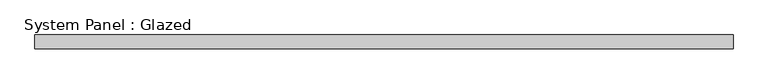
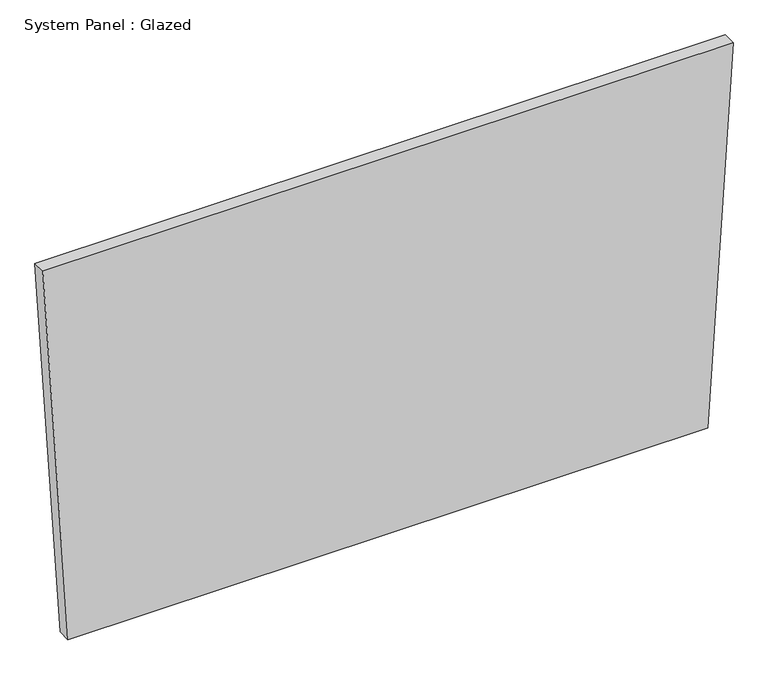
"""IFC4 building model written with IfcOpenShell, lengths in millimetres: plate geometry, System Panel : Glazed."""

from ifc_helpers import new_model, si_unit, frame, origin, place, context, project, spatial, polyline, outline, extrude, source, transform, mapped, element, save


def system_panel_glazed_e08d9c6f(model_context):
    return source(origin(), model_context, "Body", "SweptSolid", [
        extrude(outline(polyline([(0.0, -598.7570515), (0.0010621, 598.7571326), (746.0654946, 645.8601001), (746.0657168, -645.8601001), (0.0, -598.7570515)])), frame((0.0, 19.05, 0.0), z_axis=(0.0, 1.0, 0.0), x_axis=(0.0, 0.0, 1.0)), (0.0, 0.0, 1.0), 25.4),
    ])


if __name__ == "__main__":
    model = new_model("IFC4")
    model_context = context("Model", 3, world=origin())
    ifc_project = project(units=[si_unit("LENGTHUNIT", "METRE", prefix="MILLI")], contexts=[model_context])
    site = spatial("IfcSite", under=ifc_project)
    building = spatial("IfcBuilding", under=site)
    placement = place(None, origin())
    system_panel_glazed_shape = system_panel_glazed_e08d9c6f(model_context)
    element("IfcPlate", 1, ObjectType="System Panel : Glazed", at=placement, inside=building, context=model_context, shape_type="MappedRepresentation", body=[
        mapped(system_panel_glazed_shape, transform((0.0, 0.0, 0.0), x_axis=(1.0, 0.0, 0.0), y_axis=(0.0, 1.0, 0.0), z_axis=(0.0, 0.0, 1.0))),
    ])
    save(model, "model.ifc")
